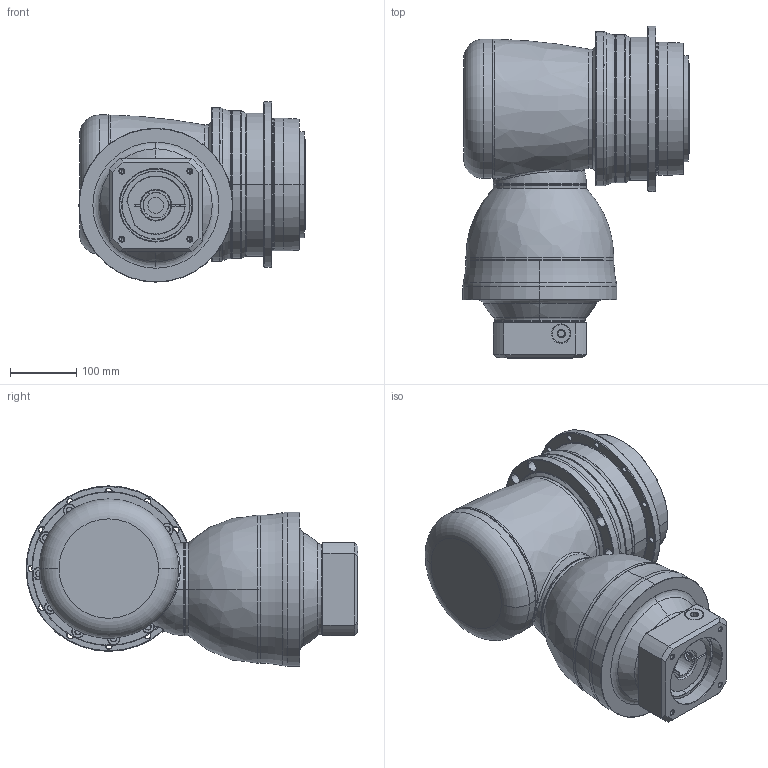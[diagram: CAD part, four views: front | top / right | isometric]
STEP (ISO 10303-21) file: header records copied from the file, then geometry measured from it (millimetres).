
FILE_DESCRIPTION((''),'2;1');
FILE_NAME('AHKB200_3ST_38-P0409900101_ASM','2016-12-15T',('d01943'),(''),'PRO/ENGINEER BY PARAMETRIC TECHNOLOGY CORPORATION, 2008410','PRO/ENGINEER BY PARAMETRIC TECHNOLOGY CORPORATION, 2008410','');
FILE_SCHEMA(('CONFIG_CONTROL_DESIGN'));
Length unit declared in the file: millimetre
Products named in the file (12): P1008600002; P1802600011; P0278600003; P0359600002; P1315600001; P1007600001; P1317600401; P0409900101; P0503900012; P0912504001; 21711422019; AHKB200_3ST_38-P0409900101_ASM
Assembly tree (11 placements, depth 2):
  AHKB200_3ST_38-P0409900101_ASM
    P1008600002
    P1802600011
    P0278600003
    P0359600002
    P1315600001
    P1007600001
    P1317600401
    P0409900101
    P0503900012
    P0912504001
    21711422019
Bounding box: 341 x 500.25 x 271.75 mm (x, y, z)
Volume: 14047360.4 mm3; surface area: 1189305.9 mm2
Topology: 12 solids, 12 shells, 990 faces, 2267 edges, 1304 vertices
Faces by surface type: cylinder 356, cone 330, plane 137, torus 126, bspline 39, sphere 2
Entity records: 34000 total; most frequent: CARTESIAN_POINT 11306, DIRECTION 5224, ORIENTED_EDGE 4346, AXIS2_PLACEMENT_3D 2233, EDGE_CURVE 2173, VERTEX_POINT 1304, CIRCLE 1259, EDGE_LOOP 1149
